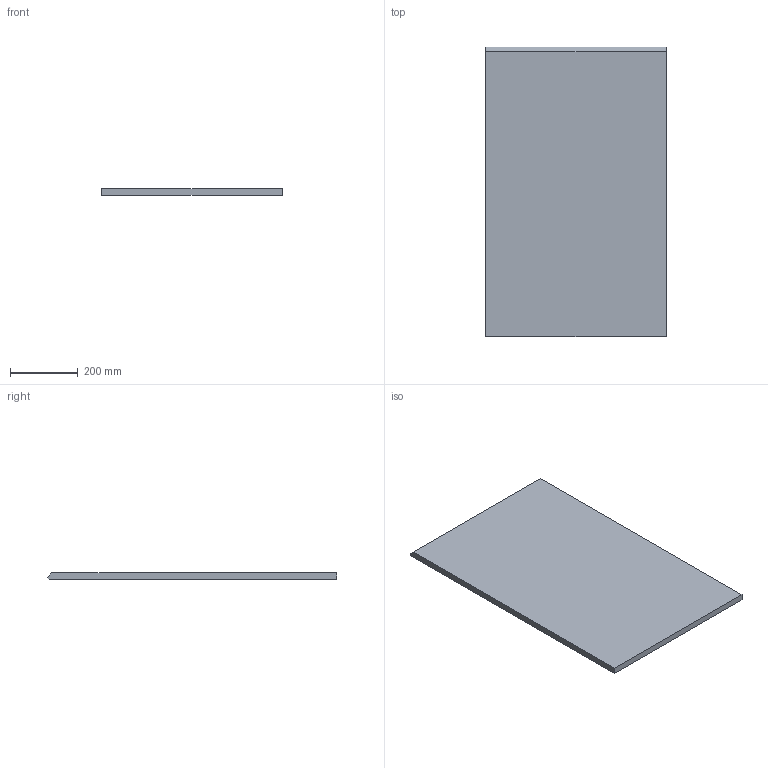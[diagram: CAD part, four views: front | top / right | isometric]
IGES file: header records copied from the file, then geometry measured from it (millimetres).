
Start section:  PTC IGES file: C:\Documents and Settings\Brad\Desktop\IGES\panel_bottom .igs
Global section: file name: C:\Documents and Settings\Brad\Desktop\IGES\panel_bottom.igs; native system: Brad by Parametric Technology Corporation; preprocessor: 2003250; author: Unknown; organization: PTC; date: 040521.142625; units: inch
Bounding box: 533.4 x 856.79 x 19.05 mm (x, y, z)
Volume: 8649345.1 mm3; surface area: 960821.3 mm2
Topology: 1 solids, 1 shells, 7 faces, 15 edges, 10 vertices
Faces by surface type: bspline 7
